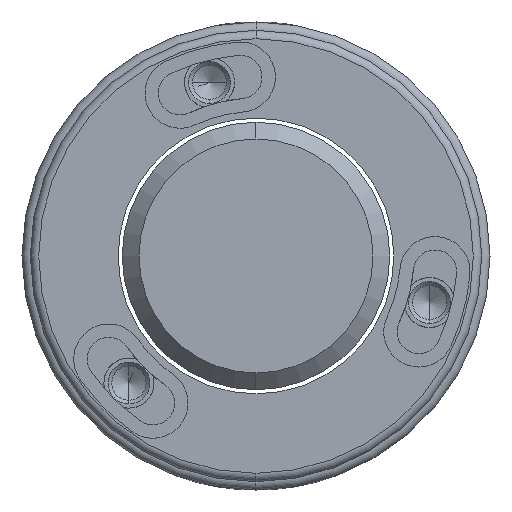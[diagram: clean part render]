
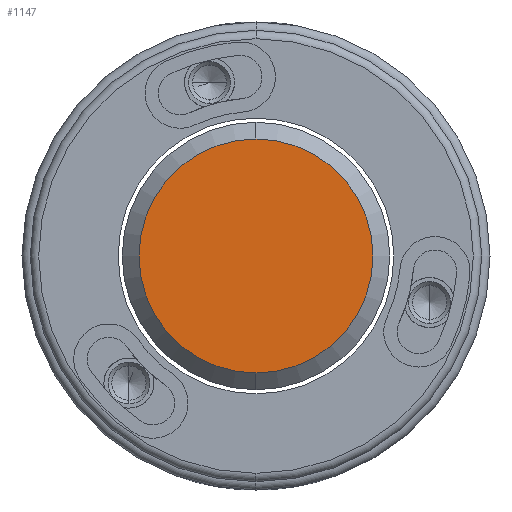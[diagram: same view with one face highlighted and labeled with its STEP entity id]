
A CAD part, left-side view. The second image highlights one B-rep face of the part: STEP entity #1147.
In plain terms, the highlighted planar face has unit normal (-1, 0, 0).
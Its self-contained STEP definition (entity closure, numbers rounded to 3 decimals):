
#222 = AXIS2_PLACEMENT_3D ( 'NONE', #734, #1176, #4297 ) ;
#567 = CARTESIAN_POINT ( 'NONE',  ( -10., 0., -7. ) ) ;
#709 = CIRCLE ( 'NONE', #4025, 7. ) ;
#734 = CARTESIAN_POINT ( 'NONE',  ( -10., 0., 0. ) ) ;
#1147 = ADVANCED_FACE ( 'NONE', ( #3868 ), #5586, .T. ) ;
#1176 = DIRECTION ( 'NONE',  ( -1., 0., 0. ) ) ;
#1737 = CIRCLE ( 'NONE', #5274, 7. ) ;
#2680 = DIRECTION ( 'NONE',  ( 0., 0., 1. ) ) ;
#3360 = ORIENTED_EDGE ( 'NONE', *, *, #3528, .T. ) ;
#3528 = EDGE_CURVE ( 'NONE', #4503, #5262, #709, .T. ) ;
#3556 = DIRECTION ( 'NONE',  ( -1., 0., 0. ) ) ;
#3778 = ORIENTED_EDGE ( 'NONE', *, *, #5352, .T. ) ;
#3868 = FACE_OUTER_BOUND ( 'NONE', #4536, .T. ) ;
#4025 = AXIS2_PLACEMENT_3D ( 'NONE', #4475, #3556, #4933 ) ;
#4297 = DIRECTION ( 'NONE',  ( 0., 0., 1. ) ) ;
#4475 = CARTESIAN_POINT ( 'NONE',  ( -10., 0., 0. ) ) ;
#4503 = VERTEX_POINT ( 'NONE', #567 ) ;
#4536 = EDGE_LOOP ( 'NONE', ( #3360, #3778 ) ) ;
#4852 = CARTESIAN_POINT ( 'NONE',  ( -10., 0., 0. ) ) ;
#4885 = DIRECTION ( 'NONE',  ( -1., 0., 0. ) ) ;
#4933 = DIRECTION ( 'NONE',  ( 0., 0., 1. ) ) ;
#5188 = CARTESIAN_POINT ( 'NONE',  ( -10., 0., 7. ) ) ;
#5262 = VERTEX_POINT ( 'NONE', #5188 ) ;
#5274 = AXIS2_PLACEMENT_3D ( 'NONE', #4852, #4885, #2680 ) ;
#5352 = EDGE_CURVE ( 'NONE', #5262, #4503, #1737, .T. ) ;
#5586 = PLANE ( 'NONE',  #222 ) ;
